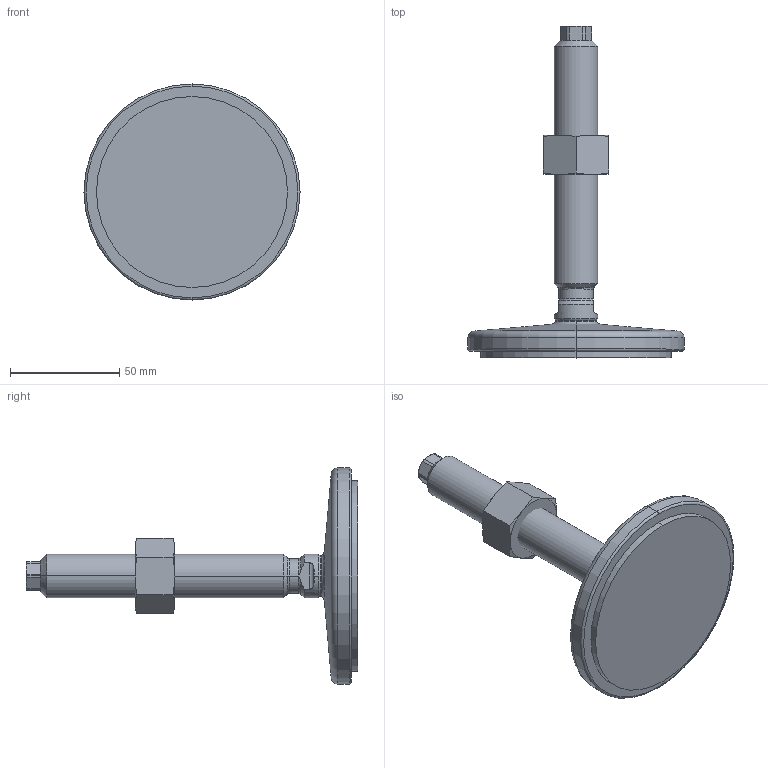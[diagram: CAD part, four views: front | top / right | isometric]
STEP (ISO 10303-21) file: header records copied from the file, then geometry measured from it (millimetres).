
FILE_DESCRIPTION (( 'STEP AP214' ), '1' );
FILE_NAME ('21-100-M20-125-D1-VK.step', '2020-10-02T17:37:25', ( '' ), ( '' ), 'SwSTEP 2.0', 'SolidWorks 2019', '' );
FILE_SCHEMA (( 'AUTOMOTIVE_DESIGN' ));
Length unit declared in the file: millimetre
Products named in the file (4): 21-100-M20-125-D1-VK; WB4032^WB21_V_M20; WB21_Fußteller 21^WB21_V_D1-100-R12-B9 (M20); WB21_Spindel_V^WB21_V_M20-125
Assembly tree (3 placements, depth 2):
  21-100-M20-125-D1-VK
    WB21_Fußteller 21^WB21_V_D1-100-R12-B9 (M20)
    WB21_Spindel_V^WB21_V_M20-125
    WB4032^WB21_V_M20
Bounding box: 99 x 152.02 x 99 mm (x, y, z)
Volume: 147930.1 mm3; surface area: 31702.2 mm2
Topology: 3 solids, 3 shells, 98 faces, 219 edges, 129 vertices
Faces by surface type: cone 29, plane 28, cylinder 27, torus 10, sphere 4
Entity records: 3117 total; most frequent: CARTESIAN_POINT 724, DIRECTION 476, ORIENTED_EDGE 438, EDGE_CURVE 219, AXIS2_PLACEMENT_3D 205, VERTEX_POINT 129, EDGE_LOOP 102, CIRCLE 101
